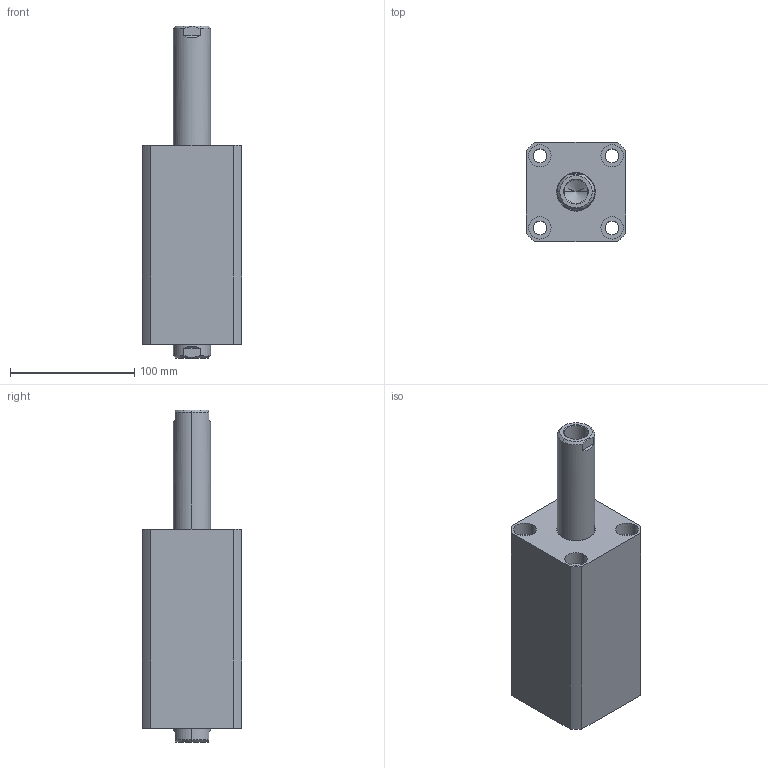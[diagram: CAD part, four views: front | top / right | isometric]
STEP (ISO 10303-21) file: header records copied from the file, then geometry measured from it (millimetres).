
FILE_DESCRIPTION (( 'STEP AP203' ), '1' );
FILE_NAME ('CHTB-SW50-85N.STEP', '2018-05-21T07:22:20', ( '' ), ( '' ), 'SwSTEP 2.0', 'SolidWorks 2015', '' );
FILE_SCHEMA (( 'CONFIG_CONTROL_DESIGN' ));
Length unit declared in the file: millimetre
Products named in the file (4): CHTB-SW50-85N; 活塞杆SW50-85N; ヶ裔; 掛极SW50-85N
Assembly tree (3 placements, depth 2):
  CHTB-SW50-85N
    掛极SW50-85N
    活塞杆SW50-85N
    ヶ裔
Bounding box: 80 x 80 x 267 mm (x, y, z)
Volume: 877429.5 mm3; surface area: 159147.3 mm2
Topology: 3 solids, 3 shells, 225 faces, 528 edges, 331 vertices
Faces by surface type: cylinder 118, plane 46, cone 33, torus 24, bspline 4
Entity records: 9698 total; most frequent: CARTESIAN_POINT 4235, DIRECTION 1104, ORIENTED_EDGE 1040, EDGE_CURVE 520, AXIS2_PLACEMENT_3D 462, VERTEX_POINT 331, EDGE_LOOP 271, CIRCLE 235
